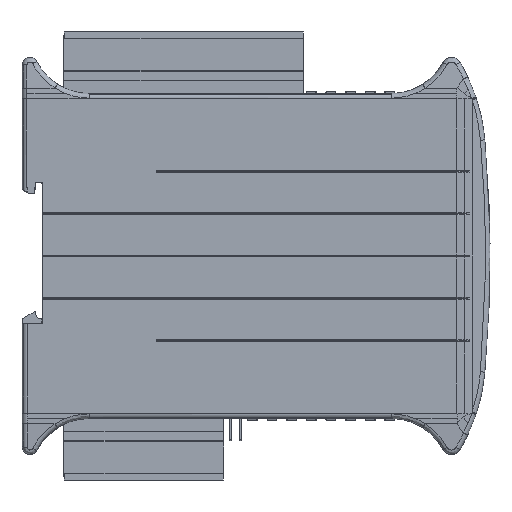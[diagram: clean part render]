
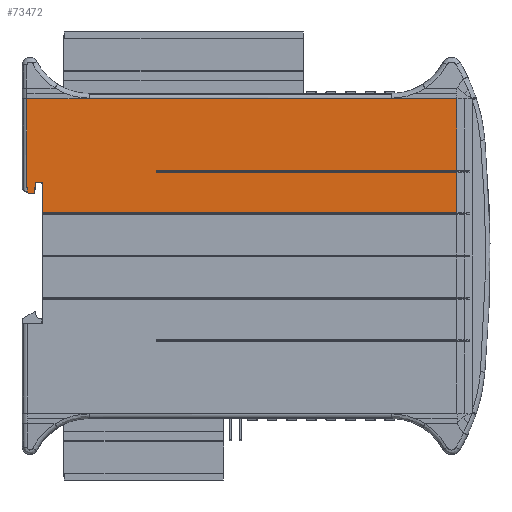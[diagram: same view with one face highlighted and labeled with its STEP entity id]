
A CAD part, front view. The second image highlights one B-rep face of the part: STEP entity #73472.
In plain terms, the highlighted planar face has unit normal (0, -1, 0).
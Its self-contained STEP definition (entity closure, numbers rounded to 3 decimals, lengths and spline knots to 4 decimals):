
#852 = EDGE_CURVE ( 'NONE', #90633, #68333, #82450, .T. ) ;
#3118 = CARTESIAN_POINT ( 'NONE',  ( 0.0472, 0., 0.6386 ) ) ;
#5581 = DIRECTION ( 'NONE',  ( 0., 0., -1. ) ) ;
#5873 = VERTEX_POINT ( 'NONE', #31009 ) ;
#6562 = CARTESIAN_POINT ( 'NONE',  ( 4.3528, 0., 1.5737 ) ) ;
#8630 = ORIENTED_EDGE ( 'NONE', *, *, #139635, .F. ) ;
#9997 = VERTEX_POINT ( 'NONE', #141452 ) ;
#10366 = DIRECTION ( 'NONE',  ( -1., 0., 0. ) ) ;
#10515 = LINE ( 'NONE', #11260, #66170 ) ;
#10615 = DIRECTION ( 'NONE',  ( -1., 0., 0. ) ) ;
#11260 = CARTESIAN_POINT ( 'NONE',  ( 0.0472, 0., 0.6386 ) ) ;
#11860 = CARTESIAN_POINT ( 'NONE',  ( 4.3528, 0., 0.8602 ) ) ;
#13051 = VECTOR ( 'NONE', #127673, 39.3701 ) ;
#15171 = ORIENTED_EDGE ( 'NONE', *, *, #102021, .T. ) ;
#16714 = CARTESIAN_POINT ( 'NONE',  ( 0.2008, 0., 0.435 ) ) ;
#18195 = CARTESIAN_POINT ( 'NONE',  ( 1.3443, 0., 0.8602 ) ) ;
#18523 = EDGE_CURVE ( 'NONE', #104164, #98613, #103499, .T. ) ;
#18593 = ORIENTED_EDGE ( 'NONE', *, *, #86933, .F. ) ;
#19678 = CARTESIAN_POINT ( 'NONE',  ( 0.0472, 0., 0.6386 ) ) ;
#21254 = EDGE_CURVE ( 'NONE', #96243, #9997, #138882, .T. ) ;
#23104 = VECTOR ( 'NONE', #5581, 39.3701 ) ;
#23201 = LINE ( 'NONE', #11860, #134898 ) ;
#24818 = DIRECTION ( 'NONE',  ( -1., 0., 0. ) ) ;
#25568 = VERTEX_POINT ( 'NONE', #116362 ) ;
#26194 = CARTESIAN_POINT ( 'NONE',  ( 0.0459, 0., 0.6892 ) ) ;
#27371 = ORIENTED_EDGE ( 'NONE', *, *, #21254, .T. ) ;
#28407 = VERTEX_POINT ( 'NONE', #53186 ) ;
#28670 = CARTESIAN_POINT ( 'NONE',  ( 0.0452, 0., 1.279 ) ) ;
#31009 = CARTESIAN_POINT ( 'NONE',  ( 0.1148, 0., 0.6299 ) ) ;
#32020 = DIRECTION ( 'NONE',  ( 1., 0., 0. ) ) ;
#32206 = CARTESIAN_POINT ( 'NONE',  ( 4.3528, 0., 0.435 ) ) ;
#32764 = LINE ( 'NONE', #88886, #141981 ) ;
#33272 = EDGE_CURVE ( 'NONE', #28407, #64826, #122274, .T. ) ;
#36578 = ORIENTED_EDGE ( 'NONE', *, *, #129913, .F. ) ;
#37240 = VERTEX_POINT ( 'NONE', #141050 ) ;
#38998 = DIRECTION ( 'NONE',  ( 0., 1., 0. ) ) ;
#42196 = CARTESIAN_POINT ( 'NONE',  ( 0.0452, 0., 1.5737 ) ) ;
#43099 = EDGE_CURVE ( 'NONE', #5873, #68333, #69447, .T. ) ;
#49537 = CARTESIAN_POINT ( 'NONE',  ( 0.0452, 0., 0.6896 ) ) ;
#49622 = FACE_OUTER_BOUND ( 'NONE', #77061, .T. ) ;
#50816 = CARTESIAN_POINT ( 'NONE',  ( 0.2008, 0., 0.7362 ) ) ;
#53186 = CARTESIAN_POINT ( 'NONE',  ( 4.3528, 0., 0.8406 ) ) ;
#53584 = CARTESIAN_POINT ( 'NONE',  ( 1.4811, 0., 1.5737 ) ) ;
#55477 = ORIENTED_EDGE ( 'NONE', *, *, #18523, .T. ) ;
#55907 = VERTEX_POINT ( 'NONE', #131987 ) ;
#56187 = EDGE_CURVE ( 'NONE', #5873, #55907, #116013, .T. ) ;
#56742 = DIRECTION ( 'NONE',  ( 0.832, 0., -0.555 ) ) ;
#58106 = VECTOR ( 'NONE', #24818, 39.3701 ) ;
#60659 = DIRECTION ( 'NONE',  ( -1., 0., 0. ) ) ;
#60886 = LINE ( 'NONE', #95722, #110205 ) ;
#61164 = CARTESIAN_POINT ( 'NONE',  ( 0.2008, 0., 0.7362 ) ) ;
#61873 = ORIENTED_EDGE ( 'NONE', *, *, #114728, .F. ) ;
#62162 = CARTESIAN_POINT ( 'NONE',  ( 0.0472, 0., 0.6883 ) ) ;
#62774 = CARTESIAN_POINT ( 'NONE',  ( 1.3443, 0., 0.8406 ) ) ;
#63233 = B_SPLINE_CURVE_WITH_KNOTS ( 'NONE', 3,
 ( #132471, #28670, #74921, #108234 ),
 .UNSPECIFIED., .F., .F.,
 ( 4, 4 ),
 ( 0., 1. ),
 .UNSPECIFIED. ) ;
#63734 = LINE ( 'NONE', #103802, #78920 ) ;
#64826 = VERTEX_POINT ( 'NONE', #32206 ) ;
#65449 = EDGE_CURVE ( 'NONE', #76489, #98613, #85708, .T. ) ;
#66170 = VECTOR ( 'NONE', #56742, 39.3701 ) ;
#68333 = VERTEX_POINT ( 'NONE', #80150 ) ;
#69378 = LINE ( 'NONE', #115574, #13051 ) ;
#69447 = LINE ( 'NONE', #115645, #75649 ) ;
#71432 = ORIENTED_EDGE ( 'NONE', *, *, #56187, .F. ) ;
#73472 = ADVANCED_FACE ( 'NONE', ( #49622 ), #144313, .F. ) ;
#74158 = VECTOR ( 'NONE', #60659, 39.3701 ) ;
#74921 = CARTESIAN_POINT ( 'NONE',  ( 0.0452, 0., 0.9843 ) ) ;
#75649 = VECTOR ( 'NONE', #126998, 39.3701 ) ;
#76346 = CARTESIAN_POINT ( 'NONE',  ( 2.9169, 0., 1.5737 ) ) ;
#76489 = VERTEX_POINT ( 'NONE', #19678 ) ;
#76826 = CARTESIAN_POINT ( 'NONE',  ( 4.3528, 0., 0.8406 ) ) ;
#77061 = EDGE_LOOP ( 'NONE', ( #27371, #15171, #55477, #83804, #135082, #71432, #107128, #96217, #105730, #36578, #81560, #98609, #8630, #61873, #18593 ) ) ;
#78920 = VECTOR ( 'NONE', #10615, 39.3701 ) ;
#80150 = CARTESIAN_POINT ( 'NONE',  ( 0.1345, 0., 0.7362 ) ) ;
#81560 = ORIENTED_EDGE ( 'NONE', *, *, #33272, .F. ) ;
#82450 = LINE ( 'NONE', #61164, #58106 ) ;
#83488 = DIRECTION ( 'NONE',  ( 0., 0., 1. ) ) ;
#83804 = ORIENTED_EDGE ( 'NONE', *, *, #65449, .F. ) ;
#85278 = CARTESIAN_POINT ( 'NONE',  ( 0.0472, 0., 0.6883 ) ) ;
#85708 = LINE ( 'NONE', #3118, #137940 ) ;
#86933 = EDGE_CURVE ( 'NONE', #96243, #37240, #60886, .T. ) ;
#88134 = EDGE_CURVE ( 'NONE', #137047, #28407, #32764, .T. ) ;
#88886 = CARTESIAN_POINT ( 'NONE',  ( 1.3443, 0., 0.8406 ) ) ;
#90633 = VERTEX_POINT ( 'NONE', #50816 ) ;
#95722 = CARTESIAN_POINT ( 'NONE',  ( 4.3528, 0., 1.5737 ) ) ;
#96217 = ORIENTED_EDGE ( 'NONE', *, *, #852, .F. ) ;
#96243 = VERTEX_POINT ( 'NONE', #6562 ) ;
#98609 = ORIENTED_EDGE ( 'NONE', *, *, #88134, .F. ) ;
#98613 = VERTEX_POINT ( 'NONE', #62162 ) ;
#101635 = EDGE_CURVE ( 'NONE', #25568, #90633, #120541, .T. ) ;
#102021 = EDGE_CURVE ( 'NONE', #9997, #104164, #63233, .T. ) ;
#103499 = B_SPLINE_CURVE_WITH_KNOTS ( 'NONE', 3,
 ( #142860, #26194, #120120, #85278 ),
 .UNSPECIFIED., .F., .F.,
 ( 4, 4 ),
 ( 0., 1. ),
 .UNSPECIFIED. ) ;
#103802 = CARTESIAN_POINT ( 'NONE',  ( 4.3528, 0., 0.435 ) ) ;
#103903 = CARTESIAN_POINT ( 'NONE',  ( 0.1148, 0., 0.6299 ) ) ;
#104164 = VERTEX_POINT ( 'NONE', #49537 ) ;
#105730 = ORIENTED_EDGE ( 'NONE', *, *, #101635, .F. ) ;
#107128 = ORIENTED_EDGE ( 'NONE', *, *, #43099, .T. ) ;
#107229 = CARTESIAN_POINT ( 'NONE',  ( 2.3425, 0., 0. ) ) ;
#108234 = CARTESIAN_POINT ( 'NONE',  ( 0.0452, 0., 0.6896 ) ) ;
#108365 = EDGE_CURVE ( 'NONE', #76489, #55907, #10515, .T. ) ;
#110205 = VECTOR ( 'NONE', #119933, 39.3701 ) ;
#111176 = CARTESIAN_POINT ( 'NONE',  ( 4.3528, 0., 1.5737 ) ) ;
#114728 = EDGE_CURVE ( 'NONE', #37240, #149121, #23201, .T. ) ;
#115574 = CARTESIAN_POINT ( 'NONE',  ( 1.3443, 0., 0.8602 ) ) ;
#115645 = CARTESIAN_POINT ( 'NONE',  ( 0.1148, 0., 0.6299 ) ) ;
#116013 = LINE ( 'NONE', #103903, #74158 ) ;
#116362 = CARTESIAN_POINT ( 'NONE',  ( 0.2008, 0., 0.435 ) ) ;
#119933 = DIRECTION ( 'NONE',  ( 0., 0., -1. ) ) ;
#120120 = CARTESIAN_POINT ( 'NONE',  ( 0.0466, 0., 0.6887 ) ) ;
#120541 = LINE ( 'NONE', #16714, #124506 ) ;
#121598 = DIRECTION ( 'NONE',  ( 0., 0., 1. ) ) ;
#122274 = LINE ( 'NONE', #76826, #23104 ) ;
#124506 = VECTOR ( 'NONE', #144761, 39.3701 ) ;
#126998 = DIRECTION ( 'NONE',  ( 0.182, 0., 0.983 ) ) ;
#127673 = DIRECTION ( 'NONE',  ( 0., 0., -1. ) ) ;
#129913 = EDGE_CURVE ( 'NONE', #64826, #25568, #63734, .T. ) ;
#131987 = CARTESIAN_POINT ( 'NONE',  ( 0.0602, 0., 0.6299 ) ) ;
#132376 = AXIS2_PLACEMENT_3D ( 'NONE', #107229, #38998, #121598 ) ;
#132471 = CARTESIAN_POINT ( 'NONE',  ( 0.0452, 0., 1.5737 ) ) ;
#134898 = VECTOR ( 'NONE', #10366, 39.3701 ) ;
#135082 = ORIENTED_EDGE ( 'NONE', *, *, #108365, .T. ) ;
#137047 = VERTEX_POINT ( 'NONE', #62774 ) ;
#137940 = VECTOR ( 'NONE', #83488, 39.3701 ) ;
#138882 = B_SPLINE_CURVE_WITH_KNOTS ( 'NONE', 3,
 ( #111176, #76346, #53584, #42196 ),
 .UNSPECIFIED., .F., .F.,
 ( 4, 4 ),
 ( 0., 1. ),
 .UNSPECIFIED. ) ;
#139635 = EDGE_CURVE ( 'NONE', #149121, #137047, #69378, .T. ) ;
#141050 = CARTESIAN_POINT ( 'NONE',  ( 4.3528, 0., 0.8602 ) ) ;
#141452 = CARTESIAN_POINT ( 'NONE',  ( 0.0452, 0., 1.5737 ) ) ;
#141981 = VECTOR ( 'NONE', #32020, 39.3701 ) ;
#142860 = CARTESIAN_POINT ( 'NONE',  ( 0.0452, 0., 0.6896 ) ) ;
#144313 = PLANE ( 'NONE',  #132376 ) ;
#144761 = DIRECTION ( 'NONE',  ( 0., 0., 1. ) ) ;
#149121 = VERTEX_POINT ( 'NONE', #18195 ) ;
